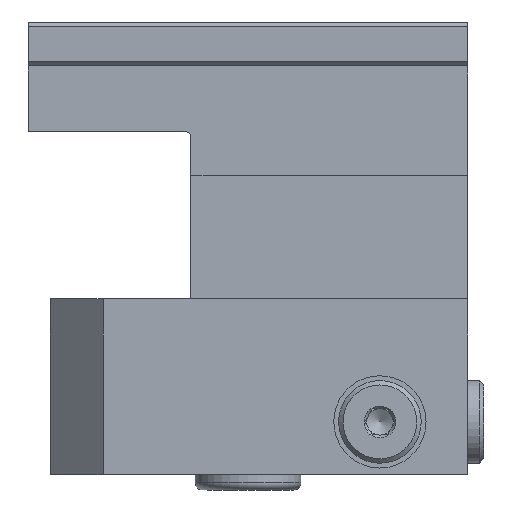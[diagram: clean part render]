
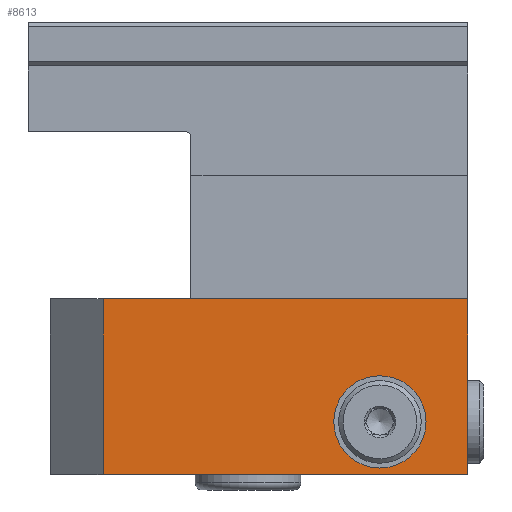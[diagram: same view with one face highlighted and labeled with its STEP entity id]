
A CAD part, front view. The second image highlights one B-rep face of the part: STEP entity #8613.
In plain terms, the highlighted planar face has unit normal (0, -1, 0).
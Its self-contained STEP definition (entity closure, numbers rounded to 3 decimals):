
#525=FACE_BOUND('',#1558,.T.);
#688=PLANE('',#9061);
#1062=FACE_OUTER_BOUND('',#1557,.T.);
#1557=EDGE_LOOP('',(#6831,#6832,#6833,#6834));
#1558=EDGE_LOOP('',(#6835,#6836));
#2173=LINE('',#14154,#2795);
#2177=LINE('',#14163,#2799);
#2206=LINE('',#14427,#2828);
#2207=LINE('',#14429,#2829);
#2795=VECTOR('',#10186,10.);
#2799=VECTOR('',#10194,10.);
#2828=VECTOR('',#10397,10.);
#2829=VECTOR('',#10400,10.);
#3055=CIRCLE('',#9013,10.5);
#3056=CIRCLE('',#9014,10.5);
#3759=VERTEX_POINT('',#14147);
#3762=VERTEX_POINT('',#14152);
#3765=VERTEX_POINT('',#14162);
#3799=VERTEX_POINT('',#14335);
#3800=VERTEX_POINT('',#14336);
#3828=VERTEX_POINT('',#14425);
#4810=EDGE_CURVE('',#3762,#3759,#2173,.T.);
#4814=EDGE_CURVE('',#3759,#3765,#2177,.T.);
#4860=EDGE_CURVE('',#3799,#3800,#3055,.T.);
#4861=EDGE_CURVE('',#3800,#3799,#3056,.T.);
#4903=EDGE_CURVE('',#3828,#3765,#2206,.T.);
#4904=EDGE_CURVE('',#3828,#3762,#2207,.T.);
#6831=ORIENTED_EDGE('',*,*,#4810,.F.);
#6832=ORIENTED_EDGE('',*,*,#4904,.F.);
#6833=ORIENTED_EDGE('',*,*,#4903,.T.);
#6834=ORIENTED_EDGE('',*,*,#4814,.F.);
#6835=ORIENTED_EDGE('',*,*,#4860,.T.);
#6836=ORIENTED_EDGE('',*,*,#4861,.T.);
#8613=ADVANCED_FACE('',(#1062,#525),#688,.T.);
#9013=AXIS2_PLACEMENT_3D('',#14337,#10287,#10288);
#9014=AXIS2_PLACEMENT_3D('',#14338,#10289,#10290);
#9061=AXIS2_PLACEMENT_3D('',#14428,#10398,#10399);
#10186=DIRECTION('',(0.,0.,1.));
#10194=DIRECTION('',(1.,0.,0.));
#10287=DIRECTION('center_axis',(0.,1.,0.));
#10288=DIRECTION('ref_axis',(1.,0.,0.));
#10289=DIRECTION('center_axis',(0.,1.,0.));
#10290=DIRECTION('ref_axis',(1.,0.,0.));
#10397=DIRECTION('',(0.,0.,1.));
#10398=DIRECTION('center_axis',(0.,-1.,0.));
#10399=DIRECTION('ref_axis',(1.,0.,0.));
#10400=DIRECTION('',(-1.,0.,0.));
#14147=CARTESIAN_POINT('',(75.927,-33.278,-17.5));
#14152=CARTESIAN_POINT('',(75.927,-33.278,-57.5));
#14154=CARTESIAN_POINT('',(75.927,-33.278,-57.5));
#14162=CARTESIAN_POINT('',(158.927,-33.278,-17.5));
#14163=CARTESIAN_POINT('',(158.927,-33.278,-17.5));
#14335=CARTESIAN_POINT('',(149.427,-33.278,-45.5));
#14336=CARTESIAN_POINT('',(128.427,-33.278,-45.5));
#14337=CARTESIAN_POINT('Origin',(138.927,-33.278,-45.5));
#14338=CARTESIAN_POINT('Origin',(138.927,-33.278,-45.5));
#14425=CARTESIAN_POINT('',(158.927,-33.278,-57.5));
#14427=CARTESIAN_POINT('',(158.927,-33.278,-57.5));
#14428=CARTESIAN_POINT('Origin',(63.927,-33.278,-57.5));
#14429=CARTESIAN_POINT('',(158.927,-33.278,-57.5));
